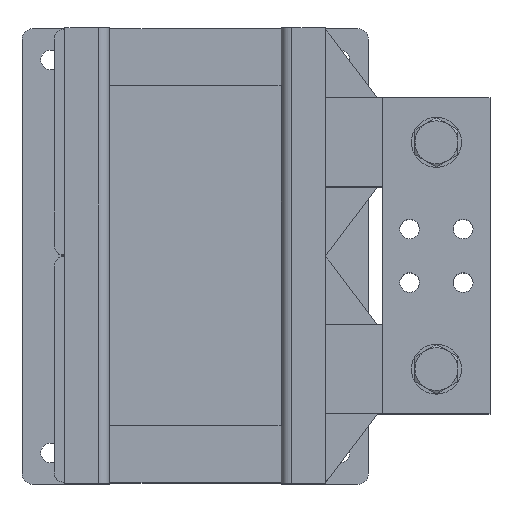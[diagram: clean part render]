
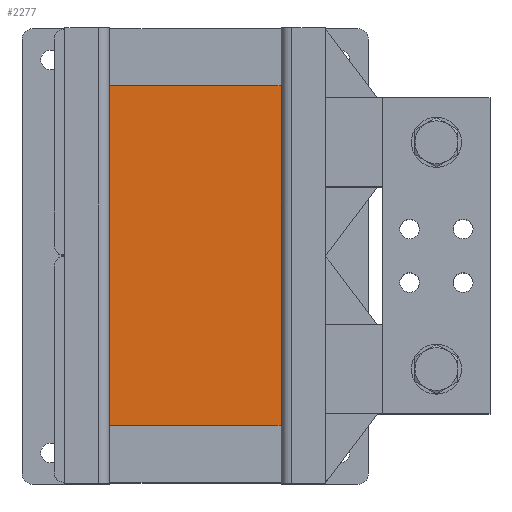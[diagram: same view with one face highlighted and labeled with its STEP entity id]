
A CAD part, top view. The second image highlights one B-rep face of the part: STEP entity #2277.
In plain terms, the highlighted planar face has unit normal (0, 0, 1).
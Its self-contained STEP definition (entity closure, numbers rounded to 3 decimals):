
#2277=ADVANCED_FACE('',(#3813),#3815,.T.);
#3813=FACE_BOUND('',#3814,.T.);
#3814=EDGE_LOOP('',(#5649,#5650,#5651,#5652));
#3815=PLANE('',#3816);
#3816=AXIS2_PLACEMENT_3D('',#3817,#3818,#3819);
#3817=CARTESIAN_POINT('',(0.,0.,283.));
#3818=DIRECTION('',(0.,0.,1.));
#3819=DIRECTION('',(-1.,0.,0.));
#5649=ORIENTED_EDGE('',*,*,#6594,.T.);
#5650=ORIENTED_EDGE('',*,*,#6492,.T.);
#5651=ORIENTED_EDGE('',*,*,#6593,.T.);
#5652=ORIENTED_EDGE('',*,*,#6500,.T.);
#6492=EDGE_CURVE('',#7220,#7218,#7221,.T.);
#6500=EDGE_CURVE('',#7236,#7234,#7237,.T.);
#6593=EDGE_CURVE('',#7218,#7236,#7397,.T.);
#6594=EDGE_CURVE('',#7234,#7220,#7398,.T.);
#7218=VERTEX_POINT('',#8660);
#7220=VERTEX_POINT('',#8664);
#7221=LINE('',#8665,#8666);
#7234=VERTEX_POINT('',#8694);
#7236=VERTEX_POINT('',#8698);
#7237=LINE('',#8699,#8700);
#7397=LINE('',#9071,#9072);
#7398=LINE('',#9074,#9075);
#8660=CARTESIAN_POINT('',(48.,95.,283.));
#8664=CARTESIAN_POINT('',(48.,-95.,283.));
#8665=CARTESIAN_POINT('',(48.,-95.,283.));
#8666=VECTOR('',#8667,1.);
#8667=DIRECTION('',(0.,1.,0.));
#8694=CARTESIAN_POINT('',(-48.,-95.,283.));
#8698=CARTESIAN_POINT('',(-48.,95.,283.));
#8699=CARTESIAN_POINT('',(-48.,95.,283.));
#8700=VECTOR('',#8701,1.);
#8701=DIRECTION('',(0.,-1.,0.));
#9071=CARTESIAN_POINT('',(48.,95.,283.));
#9072=VECTOR('',#9073,1.);
#9073=DIRECTION('',(-1.,0.,0.));
#9074=CARTESIAN_POINT('',(-48.,-95.,283.));
#9075=VECTOR('',#9076,1.);
#9076=DIRECTION('',(1.,0.,0.));
